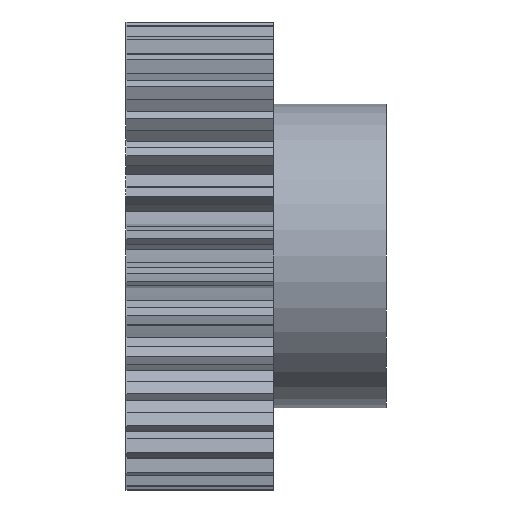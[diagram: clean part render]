
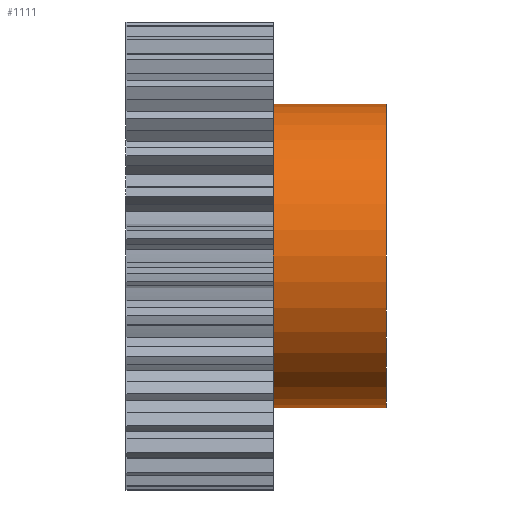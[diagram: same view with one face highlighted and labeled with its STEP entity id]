
A CAD part, front view. The second image highlights one B-rep face of the part: STEP entity #1111.
In plain terms, the highlighted cylindrical face has radius 17.5 mm (diameter 35 mm), a partial arc.
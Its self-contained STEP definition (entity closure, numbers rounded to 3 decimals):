
#829 = EDGE_CURVE ( 'NONE', #1139, #1130, #3230, .T. ) ;
#838 = EDGE_CURVE ( 'NONE', #1135, #1134, #3265, .T. ) ;
#1020 = ORIENTED_EDGE ( 'NONE', *, *, #1127, .T. ) ;
#1023 = ORIENTED_EDGE ( 'NONE', *, *, #829, .T. ) ;
#1052 = EDGE_LOOP ( 'NONE', ( #1056, #1110, #1020, #1023 ) ) ;
#1056 = ORIENTED_EDGE ( 'NONE', *, *, #1140, .F. ) ;
#1110 = ORIENTED_EDGE ( 'NONE', *, *, #838, .T. ) ;
#1111 = ADVANCED_FACE ( 'NONE', ( #3396 ), #3400, .T. ) ;
#1127 = EDGE_CURVE ( 'NONE', #1134, #1139, #3416, .T. ) ;
#1130 = VERTEX_POINT ( 'NONE', #3406 ) ;
#1134 = VERTEX_POINT ( 'NONE', #3404 ) ;
#1135 = VERTEX_POINT ( 'NONE', #3417 ) ;
#1139 = VERTEX_POINT ( 'NONE', #3459 ) ;
#1140 = EDGE_CURVE ( 'NONE', #1135, #1130, #3456, .T. ) ;
#3222 = AXIS2_PLACEMENT_3D ( 'NONE', #3274, #3273, #3272 ) ;
#3230 = CIRCLE ( 'NONE', #3222, 17.5 ) ;
#3233 = CARTESIAN_POINT ( 'NONE',  ( 21.5, 0., 0. ) ) ;
#3262 = DIRECTION ( 'NONE',  ( 0., 0., 1. ) ) ;
#3263 = DIRECTION ( 'NONE',  ( -1., 0., 0. ) ) ;
#3264 = AXIS2_PLACEMENT_3D ( 'NONE', #3233, #3263, #3262 ) ;
#3265 = CIRCLE ( 'NONE', #3264, 17.5 ) ;
#3272 = DIRECTION ( 'NONE',  ( 0., 0., 1. ) ) ;
#3273 = DIRECTION ( 'NONE',  ( 1., 0., 0. ) ) ;
#3274 = CARTESIAN_POINT ( 'NONE',  ( 8.5, 0., 0. ) ) ;
#3384 = DIRECTION ( 'NONE',  ( -1., 0., 0. ) ) ;
#3388 = AXIS2_PLACEMENT_3D ( 'NONE', #3393, #3384, #3394 ) ;
#3393 = CARTESIAN_POINT ( 'NONE',  ( 8.5, 0., 0. ) ) ;
#3394 = DIRECTION ( 'NONE',  ( 0., 0., 1. ) ) ;
#3396 = FACE_OUTER_BOUND ( 'NONE', #1052, .T. ) ;
#3400 = CYLINDRICAL_SURFACE ( 'NONE', #3388, 17.5 ) ;
#3404 = CARTESIAN_POINT ( 'NONE',  ( 21.5, 0., 17.5 ) ) ;
#3406 = CARTESIAN_POINT ( 'NONE',  ( 8.5, 0., -17.5 ) ) ;
#3408 = DIRECTION ( 'NONE',  ( -1., 0., 0. ) ) ;
#3409 = VECTOR ( 'NONE', #3408, 1000. ) ;
#3415 = CARTESIAN_POINT ( 'NONE',  ( 8.5, 0., 17.5 ) ) ;
#3416 = LINE ( 'NONE', #3415, #3409 ) ;
#3417 = CARTESIAN_POINT ( 'NONE',  ( 21.5, 0., -17.5 ) ) ;
#3453 = DIRECTION ( 'NONE',  ( -1., 0., 0. ) ) ;
#3454 = VECTOR ( 'NONE', #3453, 1000. ) ;
#3455 = CARTESIAN_POINT ( 'NONE',  ( 8.5, 0., -17.5 ) ) ;
#3456 = LINE ( 'NONE', #3455, #3454 ) ;
#3459 = CARTESIAN_POINT ( 'NONE',  ( 8.5, 0., 17.5 ) ) ;
